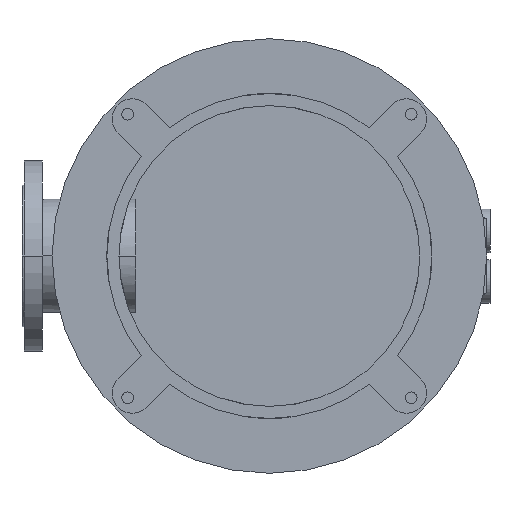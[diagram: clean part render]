
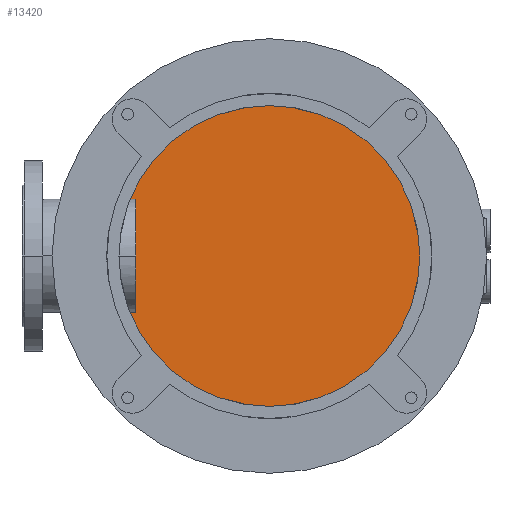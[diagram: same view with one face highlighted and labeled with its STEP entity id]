
A CAD part, front view. The second image highlights one B-rep face of the part: STEP entity #13420.
In plain terms, the highlighted planar face has unit normal (0, -1, 0).
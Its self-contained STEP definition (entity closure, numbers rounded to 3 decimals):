
#2801=CARTESIAN_POINT('',(0.,836.,0.));
#2802=DIRECTION('',(0.,-1.,0.));
#2803=DIRECTION('',(0.,0.,1.));
#2804=AXIS2_PLACEMENT_3D('',#2801,#2802,#2803);
#2970=CARTESIAN_POINT('',(0.,836.,0.));
#2971=DIRECTION('',(0.,-1.,0.));
#2972=DIRECTION('',(0.,0.,-1.));
#2973=AXIS2_PLACEMENT_3D('',#2970,#2971,#2972);
#8571=CARTESIAN_POINT('',(0.,836.,240.));
#8572=CARTESIAN_POINT('',(0.,836.,-240.));
#8573=VERTEX_POINT('',#8571);
#8574=VERTEX_POINT('',#8572);
#13410=CARTESIAN_POINT('',(0.,836.,0.));
#13411=DIRECTION('',(0.,1.,0.));
#13412=DIRECTION('',(0.,0.,-1.));
#13413=AXIS2_PLACEMENT_3D('',#13410,#13411,#13412);
#13414=PLANE('',#13413);
#13415=ORIENTED_EDGE('',*,*,#13388,.F.);
#13417=ORIENTED_EDGE('',*,*,#13416,.F.);
#13418=EDGE_LOOP('',(#13415,#13417));
#13419=FACE_OUTER_BOUND('',#13418,.F.);
#13420=ADVANCED_FACE('',(#13419),#13414,.F.);
#2805=CIRCLE('',#2804,240.);
#2974=CIRCLE('',#2973,240.);
#13388=EDGE_CURVE('',#8573,#8574,#2805,.T.);
#13416=EDGE_CURVE('',#8574,#8573,#2974,.T.);
